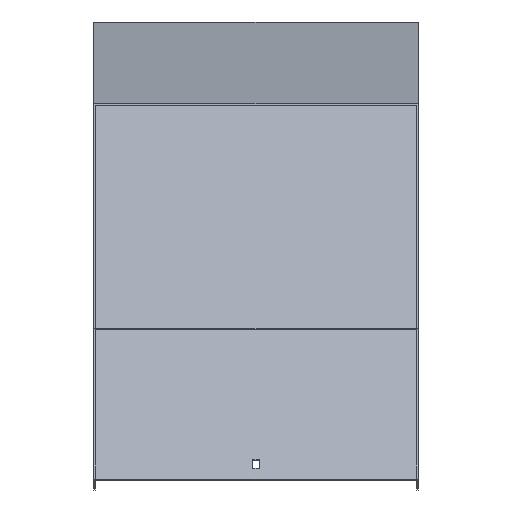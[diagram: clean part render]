
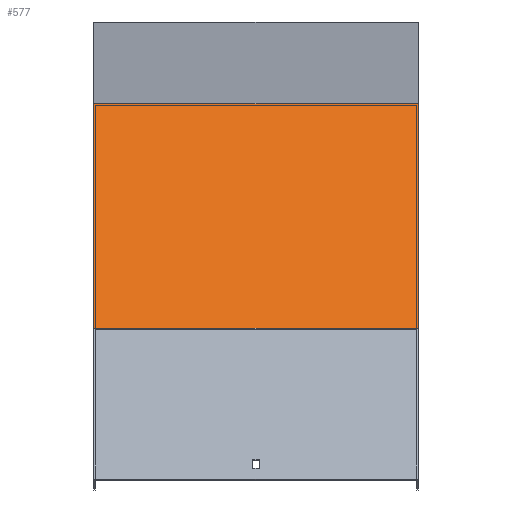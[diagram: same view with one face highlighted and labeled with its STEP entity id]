
A CAD part, top view. The second image highlights one B-rep face of the part: STEP entity #577.
In plain terms, the highlighted planar face has unit normal (0, 0.707, 0.707).
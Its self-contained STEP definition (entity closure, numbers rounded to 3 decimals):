
#70 = EDGE_CURVE ( 'NONE', #323, #404, #784, .T. ) ;
#73 = CARTESIAN_POINT ( 'NONE',  ( -151.5, -266.872, 659.51 ) ) ;
#119 = EDGE_CURVE ( 'NONE', #404, #240, #713, .T. ) ;
#128 = DIRECTION ( 'NONE',  ( -1., 0., 0. ) ) ;
#137 = LINE ( 'NONE', #889, #403 ) ;
#154 = VECTOR ( 'NONE', #870, 1000. ) ;
#240 = VERTEX_POINT ( 'NONE', #73 ) ;
#279 = EDGE_CURVE ( 'NONE', #519, #240, #137, .T. ) ;
#304 = ORIENTED_EDGE ( 'NONE', *, *, #119, .F. ) ;
#323 = VERTEX_POINT ( 'NONE', #777 ) ;
#334 = CARTESIAN_POINT ( 'NONE',  ( 151.5, -266.872, 659.51 ) ) ;
#337 = CARTESIAN_POINT ( 'NONE',  ( 151.5, -56.867, 449.505 ) ) ;
#403 = VECTOR ( 'NONE', #807, 1000. ) ;
#404 = VERTEX_POINT ( 'NONE', #334 ) ;
#428 = LINE ( 'NONE', #337, #882 ) ;
#435 = CARTESIAN_POINT ( 'NONE',  ( -151.5, -56.867, 449.505 ) ) ;
#471 = ORIENTED_EDGE ( 'NONE', *, *, #844, .T. ) ;
#519 = VERTEX_POINT ( 'NONE', #435 ) ;
#574 = VECTOR ( 'NONE', #637, 1000. ) ;
#577 = ADVANCED_FACE ( 'NONE', ( #680 ), #739, .F. ) ;
#637 = DIRECTION ( 'NONE',  ( -1., 0., 0. ) ) ;
#650 = ORIENTED_EDGE ( 'NONE', *, *, #70, .F. ) ;
#654 = CARTESIAN_POINT ( 'NONE',  ( 151.5, -60.657, 453.295 ) ) ;
#669 = DIRECTION ( 'NONE',  ( 0., 0.707, -0.707 ) ) ;
#680 = FACE_OUTER_BOUND ( 'NONE', #845, .T. ) ;
#713 = LINE ( 'NONE', #803, #574 ) ;
#739 = PLANE ( 'NONE',  #895 ) ;
#742 = ORIENTED_EDGE ( 'NONE', *, *, #279, .T. ) ;
#758 = CARTESIAN_POINT ( 'NONE',  ( 151.5, -60.657, 453.295 ) ) ;
#777 = CARTESIAN_POINT ( 'NONE',  ( 151.5, -56.867, 449.505 ) ) ;
#784 = LINE ( 'NONE', #654, #154 ) ;
#803 = CARTESIAN_POINT ( 'NONE',  ( 151.5, -266.872, 659.51 ) ) ;
#807 = DIRECTION ( 'NONE',  ( 0., -0.707, 0.707 ) ) ;
#838 = DIRECTION ( 'NONE',  ( 0., -0.707, -0.707 ) ) ;
#844 = EDGE_CURVE ( 'NONE', #323, #519, #428, .T. ) ;
#845 = EDGE_LOOP ( 'NONE', ( #742, #304, #650, #471 ) ) ;
#870 = DIRECTION ( 'NONE',  ( 0., -0.707, 0.707 ) ) ;
#882 = VECTOR ( 'NONE', #128, 1000. ) ;
#889 = CARTESIAN_POINT ( 'NONE',  ( -151.5, -60.657, 453.295 ) ) ;
#895 = AXIS2_PLACEMENT_3D ( 'NONE', #758, #838, #669 ) ;
